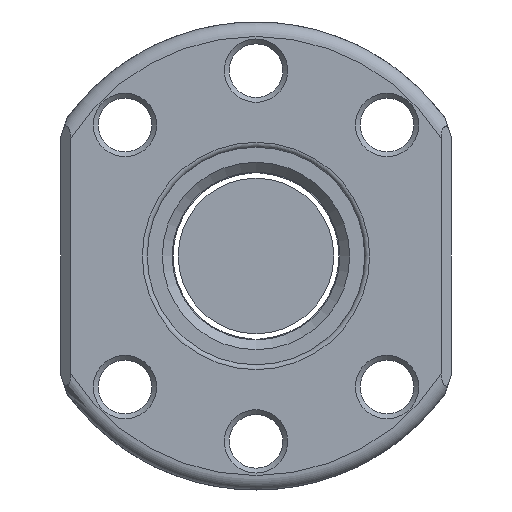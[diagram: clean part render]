
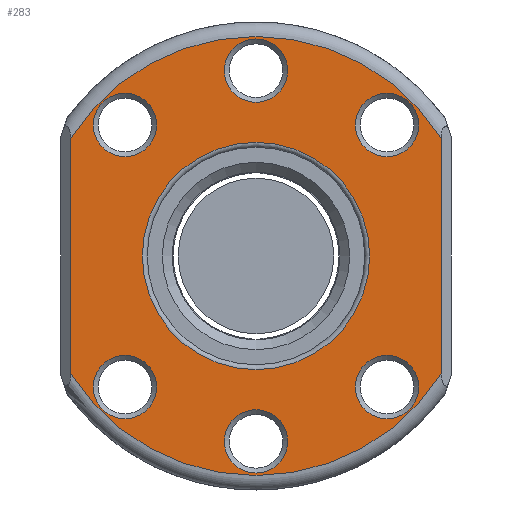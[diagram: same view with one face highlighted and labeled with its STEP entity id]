
A CAD part, front view. The second image highlights one B-rep face of the part: STEP entity #283.
In plain terms, the highlighted planar face has unit normal (0, -1, 0).
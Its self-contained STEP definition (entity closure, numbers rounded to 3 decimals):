
#55=LINE('',#1739,#95);
#56=LINE('',#1743,#96);
#95=VECTOR('',#1426,1.);
#96=VECTOR('',#1429,1.);
#209=PLANE('',#1202);
#283=ADVANCED_FACE('',(#382,#383,#384,#385,#386,#387,#388,#389),#209,.T.);
#382=FACE_BOUND('',#502,.T.);
#383=FACE_BOUND('',#503,.T.);
#384=FACE_BOUND('',#504,.T.);
#385=FACE_BOUND('',#505,.T.);
#386=FACE_BOUND('',#506,.T.);
#387=FACE_BOUND('',#507,.T.);
#388=FACE_BOUND('',#508,.T.);
#389=FACE_BOUND('',#509,.T.);
#502=EDGE_LOOP('',(#674));
#503=EDGE_LOOP('',(#675));
#504=EDGE_LOOP('',(#676));
#505=EDGE_LOOP('',(#677));
#506=EDGE_LOOP('',(#678));
#507=EDGE_LOOP('',(#679));
#508=EDGE_LOOP('',(#680));
#509=EDGE_LOOP('',(#681,#682,#683,#684));
#674=ORIENTED_EDGE('',*,*,#985,.T.);
#675=ORIENTED_EDGE('',*,*,#986,.T.);
#676=ORIENTED_EDGE('',*,*,#987,.T.);
#677=ORIENTED_EDGE('',*,*,#988,.T.);
#678=ORIENTED_EDGE('',*,*,#989,.T.);
#679=ORIENTED_EDGE('',*,*,#990,.T.);
#680=ORIENTED_EDGE('',*,*,#991,.T.);
#681=ORIENTED_EDGE('',*,*,#992,.T.);
#682=ORIENTED_EDGE('',*,*,#993,.T.);
#683=ORIENTED_EDGE('',*,*,#994,.T.);
#684=ORIENTED_EDGE('',*,*,#995,.T.);
#876=VERTEX_POINT('',#1723);
#877=VERTEX_POINT('',#1725);
#878=VERTEX_POINT('',#1727);
#879=VERTEX_POINT('',#1729);
#880=VERTEX_POINT('',#1731);
#881=VERTEX_POINT('',#1733);
#882=VERTEX_POINT('',#1735);
#883=VERTEX_POINT('',#1737);
#884=VERTEX_POINT('',#1738);
#885=VERTEX_POINT('',#1740);
#886=VERTEX_POINT('',#1742);
#985=EDGE_CURVE('',#876,#876,#1094,.T.);
#986=EDGE_CURVE('',#877,#877,#1095,.T.);
#987=EDGE_CURVE('',#878,#878,#1096,.T.);
#988=EDGE_CURVE('',#879,#879,#1097,.T.);
#989=EDGE_CURVE('',#880,#880,#1098,.T.);
#990=EDGE_CURVE('',#881,#881,#1099,.T.);
#991=EDGE_CURVE('',#882,#882,#1100,.T.);
#992=EDGE_CURVE('',#883,#884,#1101,.T.);
#993=EDGE_CURVE('',#884,#885,#55,.T.);
#994=EDGE_CURVE('',#885,#886,#1102,.T.);
#995=EDGE_CURVE('',#886,#883,#56,.T.);
#1094=CIRCLE('',#1193,3.25);
#1095=CIRCLE('',#1194,3.25);
#1096=CIRCLE('',#1195,3.25);
#1097=CIRCLE('',#1196,3.25);
#1098=CIRCLE('',#1197,3.25);
#1099=CIRCLE('',#1198,3.25);
#1100=CIRCLE('',#1199,11.65);
#1101=CIRCLE('',#1200,22.5);
#1102=CIRCLE('',#1201,22.5);
#1193=AXIS2_PLACEMENT_3D('',#1722,#1410,#1411);
#1194=AXIS2_PLACEMENT_3D('',#1724,#1412,#1413);
#1195=AXIS2_PLACEMENT_3D('',#1726,#1414,#1415);
#1196=AXIS2_PLACEMENT_3D('',#1728,#1416,#1417);
#1197=AXIS2_PLACEMENT_3D('',#1730,#1418,#1419);
#1198=AXIS2_PLACEMENT_3D('',#1732,#1420,#1421);
#1199=AXIS2_PLACEMENT_3D('',#1734,#1422,#1423);
#1200=AXIS2_PLACEMENT_3D('',#1736,#1424,#1425);
#1201=AXIS2_PLACEMENT_3D('',#1741,#1427,#1428);
#1202=AXIS2_PLACEMENT_3D('',#1744,#1430,#1431);
#1410=DIRECTION('',(0.,1.,0.));
#1411=DIRECTION('',(0.,0.,-1.));
#1412=DIRECTION('',(0.,1.,0.));
#1413=DIRECTION('',(0.,0.,-1.));
#1414=DIRECTION('',(0.,1.,0.));
#1415=DIRECTION('',(0.,0.,-1.));
#1416=DIRECTION('',(0.,1.,0.));
#1417=DIRECTION('',(0.,0.,-1.));
#1418=DIRECTION('',(0.,1.,0.));
#1419=DIRECTION('',(0.,0.,-1.));
#1420=DIRECTION('',(0.,1.,0.));
#1421=DIRECTION('',(0.,0.,-1.));
#1422=DIRECTION('',(0.,1.,0.));
#1423=DIRECTION('',(0.,0.,-1.));
#1424=DIRECTION('',(0.,-1.,0.));
#1425=DIRECTION('',(0.,0.,-1.));
#1426=DIRECTION('',(0.,0.,1.));
#1427=DIRECTION('',(0.,-1.,0.));
#1428=DIRECTION('',(0.,0.,-1.));
#1429=DIRECTION('',(0.,0.,-1.));
#1430=DIRECTION('',(0.,-1.,0.));
#1431=DIRECTION('',(0.,0.,-1.));
#1722=CARTESIAN_POINT('',(13.435,0.,13.435));
#1723=CARTESIAN_POINT('',(13.435,0.,10.185));
#1724=CARTESIAN_POINT('',(-13.435,0.,13.435));
#1725=CARTESIAN_POINT('',(-13.435,0.,10.185));
#1726=CARTESIAN_POINT('',(-13.435,0.,-13.435));
#1727=CARTESIAN_POINT('',(-13.435,0.,-16.685));
#1728=CARTESIAN_POINT('',(0.,0.,-19.));
#1729=CARTESIAN_POINT('',(0.,0.,-22.25));
#1730=CARTESIAN_POINT('',(13.435,0.,-13.435));
#1731=CARTESIAN_POINT('',(13.435,0.,-16.685));
#1732=CARTESIAN_POINT('',(0.,0.,19.));
#1733=CARTESIAN_POINT('',(0.,0.,15.75));
#1734=CARTESIAN_POINT('',(0.,0.,0.));
#1735=CARTESIAN_POINT('',(0.,0.,-11.65));
#1736=CARTESIAN_POINT('',(0.,0.,0.));
#1737=CARTESIAN_POINT('',(-19.,0.,-12.052));
#1738=CARTESIAN_POINT('',(19.,0.,-12.052));
#1739=CARTESIAN_POINT('',(19.,0.,10.308));
#1740=CARTESIAN_POINT('',(19.,0.,12.052));
#1741=CARTESIAN_POINT('',(0.,0.,0.));
#1742=CARTESIAN_POINT('',(-19.,0.,12.052));
#1743=CARTESIAN_POINT('',(-19.,0.,0.));
#1744=CARTESIAN_POINT('',(0.,0.,0.));
